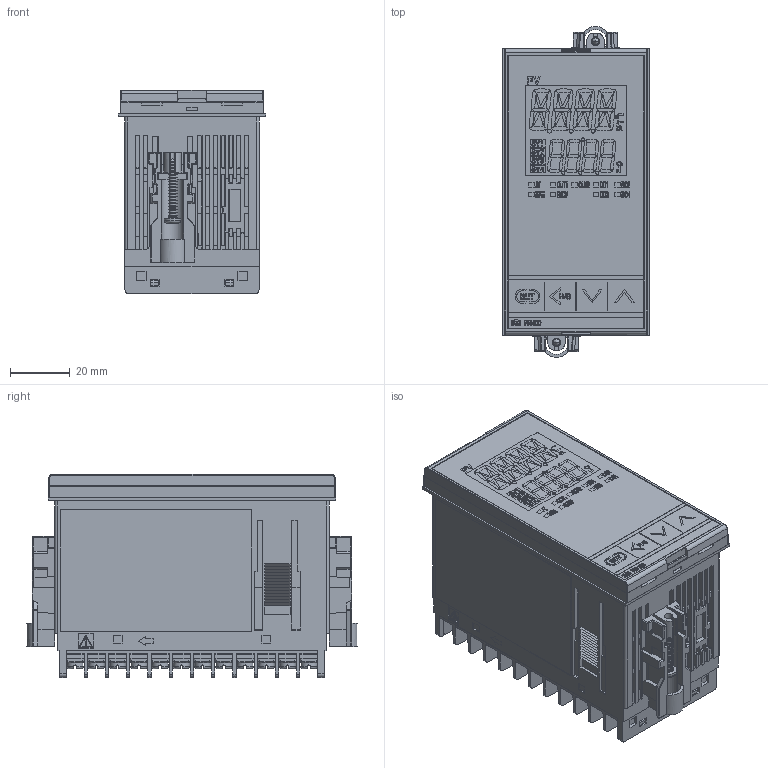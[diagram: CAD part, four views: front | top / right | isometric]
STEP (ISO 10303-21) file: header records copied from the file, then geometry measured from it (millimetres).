
FILE_DESCRIPTION (( 'STEP AP203' ), '1' );
FILE_NAME ('YIRB400-19(0).STEP', '2019-04-12T05:25:57', ( '' ), ( '' ), 'SwSTEP 2.0', 'SolidWorks 2018', '' );
FILE_SCHEMA (( 'CONFIG_CONTROL_DESIGN' ));
Products named in the file (4): KRZ400-520_WEB; YIRB400-19(0); RB400(基本設計）_WEB; KFB400-36(1)_WEB
Assembly tree (4 placements, depth 2):
  YIRB400-19(0)
    RB400(基本設計）_WEB
    KFB400-36(1)_WEB
    KRZ400-520_WEB  x2
Bounding box: 49.2 x 110.6 x 67.85 mm (x, y, z)
Volume: 256357.9 mm3; surface area: 59471.8 mm2
Topology: 11 solids, 11 shells, 6938 faces, 18703 edges, 12036 vertices
Faces by surface type: plane 4820, cylinder 940, bspline 822, cone 176, sphere 128, torus 52
Entity records: 219687 total; most frequent: CARTESIAN_POINT 64059, ORIENTED_EDGE 34148, DIRECTION 28764, EDGE_CURVE 17074, LINE 13508, VECTOR 13508, VERTEX_POINT 11087, AXIS2_PLACEMENT_3D 7628
